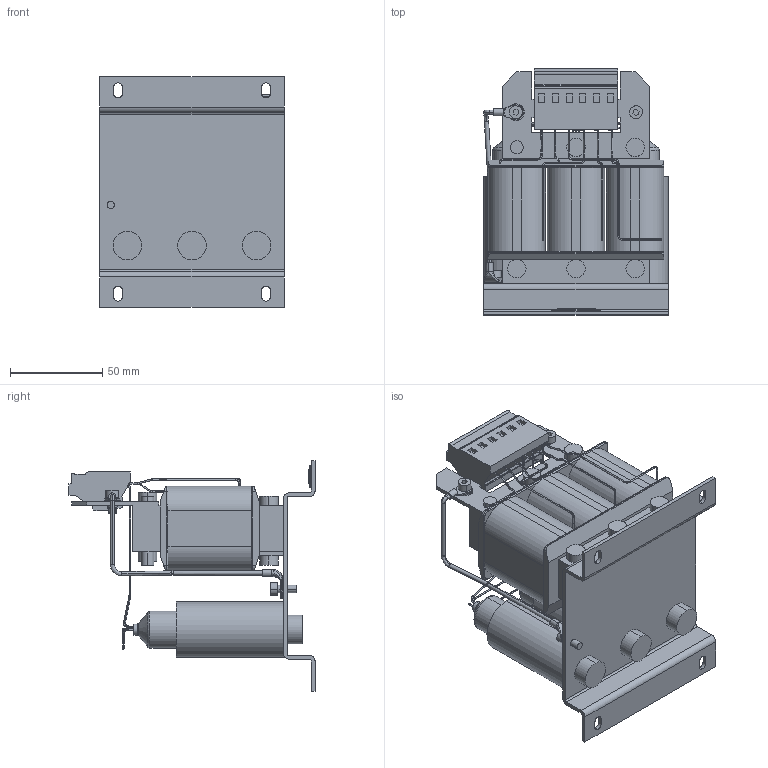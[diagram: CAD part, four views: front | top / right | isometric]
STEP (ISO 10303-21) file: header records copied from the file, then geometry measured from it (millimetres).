
FILE_DESCRIPTION (( 'STEP AP214' ), '1' );
FILE_NAME ('00Z1GX4-0007.STEP', '2023-03-09T08:07:44', ( '' ), ( '' ), 'SwSTEP 2.0', 'SolidWorks 2022', '' );
FILE_SCHEMA (( 'AUTOMOTIVE_DESIGN' ));
Length unit declared in the file: millimetre
Products named in the file (1): 00Z1GX4-0007
Bounding box: 100 x 133.2 x 125 mm (x, y, z)
Volume: 472363.1 mm3; surface area: 96972 mm2
Topology: 1 solids, 1 shells, 711 faces, 1810 edges, 1142 vertices
Faces by surface type: cylinder 286, plane 261, bspline 151, cone 13
Entity records: 25103 total; most frequent: CARTESIAN_POINT 7951, ORIENTED_EDGE 3620, DIRECTION 3514, EDGE_CURVE 1810, AXIS2_PLACEMENT_3D 1361, VERTEX_POINT 1142, CIRCLE 800, VECTOR 792
